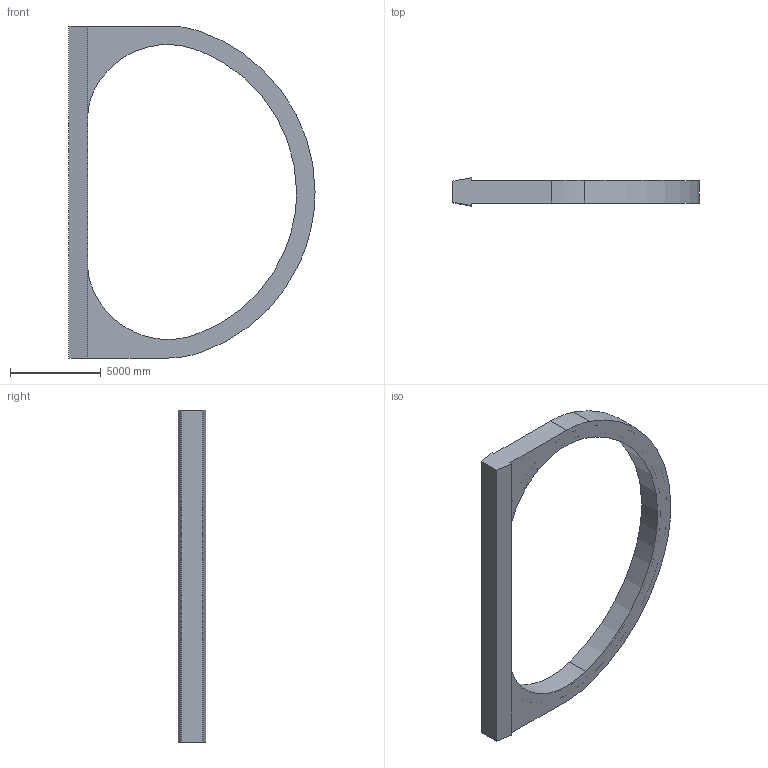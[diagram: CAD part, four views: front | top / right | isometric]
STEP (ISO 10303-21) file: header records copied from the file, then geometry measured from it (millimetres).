
FILE_DESCRIPTION(('FreeCAD Model'),'2;1');
FILE_NAME('Open CASCADE Shape Model','2026-10-11T08:36:59',('Bluemira'), ('Bluemira'),'Open CASCADE STEP processor 7.8','FreeCAD','Unknown');
FILE_SCHEMA(('AP242_MANAGED_MODEL_BASED_3D_ENGINEERING_MIM_LF. {1 0 10303 442 1 1 4 }'));
Length unit declared in the file: metre
Products named in the file (4): Unnamed; Winding_Pack_1_1; Insulation_1_1; Casing_1_1
Assembly tree (3 placements, depth 2):
  Unnamed
    Winding_Pack_1_1
    Insulation_1_1
    Casing_1_1
Bounding box: 13571.75 x 1535.13 x 18308.06 mm (x, y, z)
Volume: 79235226401.5 mm3; surface area: 864015633.3 mm2
Topology: 3 solids, 5 shells, 130 faces, 278 edges, 148 vertices
Faces by surface type: plane 72, cylinder 48, extrusion 10
Entity records: 7993 total; most frequent: CARTESIAN_POINT 2517, DIRECTION 972, ORIENTED_EDGE 556, PCURVE 556, DEFINITIONAL_REPRESENTATION 556, VECTOR 484, LINE 474, EDGE_CURVE 278
